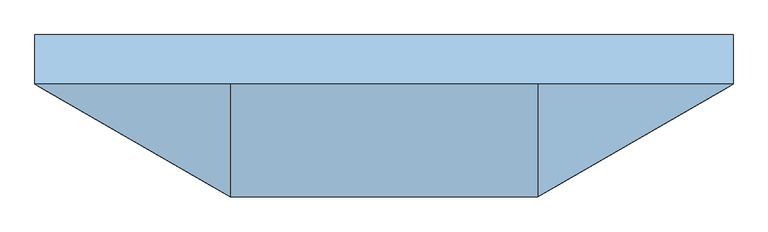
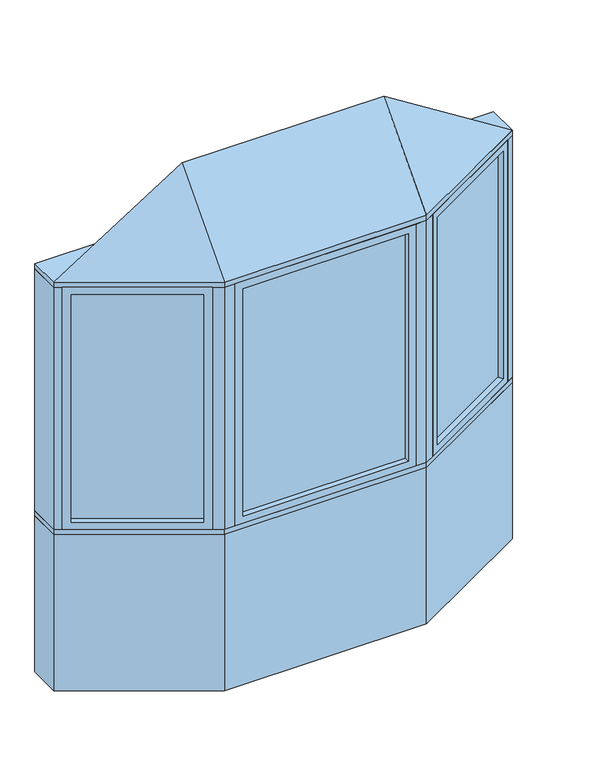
"""IFC4 building model written with IfcOpenShell, lengths in millimetres: window geometry, Pollard_Windows_Tudor Casement Bows and Bays : AML-BAY 30 AFR0612-10-600."""

import ifcopenshell
import ifcopenshell.guid

model = None  # the IFC model being written
_history = None  # IfcOwnerHistory: only IFC2X3 demands one
_inside = {}  # id of a spatial element -> (the spatial element, [elements in it])
_under = {}  # id of a project, library or spatial element -> (it, [spatial elements below it])
_declared = {}  # id of a project -> (the project, [libraries it declares])
_typed = {}  # id of a type object -> (the type object, [elements of that type])
_made_of = {}  # id of a material, layer set ... -> (it, [elements and type objects made of it])


def new_model(schema):
    """Start an empty IFC model of exactly this schema.

    Asked for "IFC4X3", IfcOpenShell would pick the latest addendum, in which some entities
    have other attributes; the version numbers below select the first issue.
    IFC2X3 requires an IfcOwnerHistory on every rooted entity: one is made here for all.
    """
    global model, _history
    if schema == "IFC4X3":
        model = ifcopenshell.file(schema_version=(4, 3, 0, 0))
    else:
        model = ifcopenshell.file(schema=schema)
    _inside.clear()
    _under.clear()
    _declared.clear()
    _typed.clear()
    _made_of.clear()
    _history = None
    if model.schema == "IFC2X3":
        org = make("IfcOrganization", Name="unknown")
        user = make(
            "IfcPersonAndOrganization",
            ThePerson=make("IfcPerson", FamilyName="unknown"),
            TheOrganization=org,
        )
        app = make(
            "IfcApplication",
            ApplicationDeveloper=org,
            Version="unknown",
            ApplicationFullName="unknown",
            ApplicationIdentifier="unknown",
        )
        _history = make(
            "IfcOwnerHistory",
            OwningUser=user,
            OwningApplication=app,
            ChangeAction="ADDED",
            CreationDate=0,
        )
    return model


def make(cls, **values):
    """One entity of the class cls with the attributes given. An attribute that is None is left unset."""
    return model.create_entity(
        cls, **{name: value for name, value in values.items() if value is not None}
    )


def rooted(cls, **values):
    """An entity with a GlobalId (a new one), such as an element, a storey or a relation."""
    return make(cls, GlobalId=ifcopenshell.guid.new(), OwnerHistory=_history, **values)


def si_unit(unit_type, name, prefix=None):
    """IfcSIUnit, for example si_unit("LENGTHUNIT", "METRE", prefix="MILLI")."""
    return make("IfcSIUnit", UnitType=unit_type, Prefix=prefix, Name=name)


def assignment(units):
    """IfcUnitAssignment: the units of a project."""
    return None if units is None else make("IfcUnitAssignment", Units=units)


def point(xyz):
    """IfcCartesianPoint."""
    return None if xyz is None else make("IfcCartesianPoint", Coordinates=xyz)


def direction(xyz):
    """IfcDirection."""
    return None if xyz is None else make("IfcDirection", DirectionRatios=xyz)


def frame(location, z_axis=None, x_axis=None):
    """IfcAxis2Placement3D, a coordinate frame: its origin and axes. An axis left out is left unset."""
    return make(
        "IfcAxis2Placement3D",
        Location=point(location),
        Axis=direction(z_axis),
        RefDirection=direction(x_axis),
    )


def origin():
    """The frame at (0, 0, 0) with its axes left unset."""
    return frame((0.0, 0.0, 0.0))


def origin_with_axes():
    """The frame at (0, 0, 0) with the z axis (0, 0, 1) and the x axis (1, 0, 0) written out."""
    return frame((0.0, 0.0, 0.0), z_axis=(0.0, 0.0, 1.0), x_axis=(1.0, 0.0, 0.0))


def place(relative_to, where):
    """IfcLocalPlacement: puts the frame where relative to a parent placement (None: the world)."""
    return make(
        "IfcLocalPlacement", PlacementRelTo=relative_to, RelativePlacement=where
    )


def context(
    kind, dimensions, precision=None, world=None, true_north=None, identifier=None
):
    """IfcGeometricRepresentationContext, for example the 3D "Model" context."""
    return make(
        "IfcGeometricRepresentationContext",
        ContextIdentifier=identifier,
        ContextType=kind,
        CoordinateSpaceDimension=dimensions,
        Precision=precision,
        WorldCoordinateSystem=world,
        TrueNorth=true_north,
    )


def project(units=None, contexts=None):
    """IfcProject with its units and contexts."""
    return rooted(
        "IfcProject",
        Name="project",
        RepresentationContexts=contexts,
        UnitsInContext=assignment(units),
    )


def spatial(cls, under=None, at=None, **own):
    """A site, building, storey or space (cls), placed at a placement, below another one or the project."""
    s = rooted(cls, ObjectPlacement=at, **own)
    if under is not None:
        _under.setdefault(under.id(), (under, []))[1].append(s)
    return s


def polyline(points):
    """IfcPolyline through the points."""
    return make("IfcPolyline", Points=[point(p) for p in points])


def outline(outer, holes=None, kind="AREA"):
    """IfcArbitraryClosedProfileDef: a profile drawn as a closed curve; with holes, ...WithVoids."""
    if holes is None:
        return make("IfcArbitraryClosedProfileDef", ProfileType=kind, OuterCurve=outer)
    return make(
        "IfcArbitraryProfileDefWithVoids",
        ProfileType=kind,
        OuterCurve=outer,
        InnerCurves=holes,
    )


def extrude(swept, where, along, depth):
    """IfcExtrudedAreaSolid: the profile swept, set in the frame where, extruded along a direction by depth."""
    return make(
        "IfcExtrudedAreaSolid",
        SweptArea=swept,
        Position=where,
        ExtrudedDirection=direction(along),
        Depth=depth,
    )


def faces_of(points, faces, orient=None, outer=None):
    """IfcFace entities. A face is a list of loops; a loop is a list of indices into points, from 0.

    orient and outer hold one flag for each loop. By default every Orientation is true, the
    first loop of a face is its IfcFaceOuterBound and the others are IfcFaceBound.
    """
    made = []
    for i, loops in enumerate(faces):
        bounds = []
        for j, loop in enumerate(loops):
            is_outer = j == 0 if outer is None else outer[i][j]
            bounds.append(
                make(
                    "IfcFaceOuterBound" if is_outer else "IfcFaceBound",
                    Bound=make("IfcPolyLoop", Polygon=[points[k] for k in loop]),
                    Orientation=True if orient is None else orient[i][j],
                )
            )
        made.append(make("IfcFace", Bounds=bounds))
    return made


def faceted_brep(points, faces, orient=None, outer=None, voids=None):
    """IfcFacetedBrep: a solid bounded by flat faces; with voids (closed shells), ...WithVoids."""
    shared = [point(p) for p in points]
    hull = make("IfcClosedShell", CfsFaces=faces_of(shared, faces, orient, outer))
    if voids is None:
        return make("IfcFacetedBrep", Outer=hull)
    return make(
        "IfcFacetedBrepWithVoids",
        Outer=hull,
        Voids=[
            make(cls, CfsFaces=faces_of(shared, fs, o, b)) for cls, fs, o, b in voids
        ],
    )


def shape(context_of_items, identifier, shape_type, items):
    """IfcShapeRepresentation: the items that make up one representation, for example the "Body"."""
    return make(
        "IfcShapeRepresentation",
        ContextOfItems=context_of_items,
        RepresentationIdentifier=identifier,
        RepresentationType=shape_type,
        Items=items,
    )


def source(mapping_origin, context_of_items, identifier, shape_type, items):
    """IfcRepresentationMap: a shape defined once, which mapped items show again and again."""
    return make(
        "IfcRepresentationMap",
        MappingOrigin=mapping_origin,
        MappedRepresentation=shape(context_of_items, identifier, shape_type, items),
    )


def transform(
    local_origin,
    x_axis=None,
    y_axis=None,
    z_axis=None,
    scale=None,
    scale2=None,
    scale3=None,
    uniform=True,
):
    """IfcCartesianTransformationOperator3D, or its non-uniform kind. x_axis, y_axis, z_axis: its Axis1, 2, 3."""
    if uniform:
        return make(
            "IfcCartesianTransformationOperator3D",
            Axis1=direction(x_axis),
            Axis2=direction(y_axis),
            LocalOrigin=point(local_origin),
            Scale=scale,
            Axis3=direction(z_axis),
        )
    return make(
        "IfcCartesianTransformationOperator3DnonUniform",
        Axis1=direction(x_axis),
        Axis2=direction(y_axis),
        LocalOrigin=point(local_origin),
        Scale=scale,
        Axis3=direction(z_axis),
        Scale2=scale2,
        Scale3=scale3,
    )


def mapped(mapping_source, mapping_target):
    """IfcMappedItem: shows the shape of a source again, moved by a transform."""
    return make(
        "IfcMappedItem", MappingSource=mapping_source, MappingTarget=mapping_target
    )


def made_of(thing, what):
    """Note that an element or type object is made of a material, layer set ...; save() writes the relation."""
    if what is not None:
        _made_of.setdefault(what.id(), (what, []))[1].append(thing)
    return thing


def element(
    cls,
    number,
    at=None,
    inside=None,
    cuts=None,
    type_object=None,
    material=None,
    context=None,
    identifier="Body",
    shape_type=None,
    held_by="IfcProductDefinitionShape",
    body=None,
    shapes=None,
    **own,
):
    """One element of the class cls, such as IfcWall. Its Tag is "e" and its number.

    at: its placement. inside: the storey or other place that contains it. cuts: it is an
    opening in that element (IfcRelVoidsElement). A single representation is given by context,
    identifier, shape_type and body (its items); several are given by shapes. held_by: the class
    of the entity that holds the representations. save() writes the other relations.
    """
    e = rooted(cls, Tag="e%d" % number, ObjectPlacement=at, **own)
    if body is not None:
        shapes = [shape(context, identifier, shape_type, body)]
    if shapes is not None:
        e.Representation = make(held_by, Representations=shapes)
    if inside is not None:
        _inside.setdefault(inside.id(), (inside, []))[1].append(e)
    if cuts is not None:
        rooted(
            "IfcRelVoidsElement", RelatingBuildingElement=cuts, RelatedOpeningElement=e
        )
    if type_object is not None:
        _typed.setdefault(type_object.id(), (type_object, []))[1].append(e)
    return made_of(e, material)


def aggregate(whole, parts):
    """IfcRelAggregates: a whole, such as a stair, and the parts it consists of."""
    return rooted("IfcRelAggregates", RelatingObject=whole, RelatedObjects=parts)


def save(model, path):
    """Write the relations noted so far, then the file.

    IfcRelAggregates (storeys below a building ...), IfcRelContainedInSpatialStructure (elements
    in a storey), IfcRelDefinesByType, IfcRelAssociatesMaterial and IfcRelDeclares: one each for
    every whole, place, type object, material and project.
    """
    for whole, parts in _under.values():
        aggregate(whole, parts)
    for where, things in _inside.values():
        rooted(
            "IfcRelContainedInSpatialStructure",
            RelatedElements=things,
            RelatingStructure=where,
        )
    for kind, things in _typed.values():
        rooted("IfcRelDefinesByType", RelatedObjects=things, RelatingType=kind)
    for what, things in _made_of.values():
        rooted("IfcRelAssociatesMaterial", RelatedObjects=things, RelatingMaterial=what)
    for by, libraries in _declared.values():
        rooted("IfcRelDeclares", RelatingContext=by, RelatedDefinitions=libraries)
    model.write(path)


def window_05678f7b(model_context):
    return source(origin(), model_context, "Body", "SolidModel", [
        extrude(outline(polyline([(1013.112102, -82.0482469), (524.8834764, -363.9271754), (522.3434764, -359.5277664), (1010.572102, -77.6488379), (1013.112102, -82.0482469)])), frame((0.0, 0.0, 823.1628), z_axis=(0.0, 0.0, 1.0), x_axis=(1.0, 0.0, 0.0)), (0.0, 0.0, 1.0), 1153.6704),
        faceted_brep([(1002.1135794, -88.3982469, 835.8628), (1014.8135794, -110.3952922, 835.8628), (1014.8135794, -110.3952922, 1964.1332), (1002.1135794, -88.3982469, 1964.1332), (1010.572102, -77.6488379, 823.1628), (1013.112102, -82.0482469, 823.1628), (1013.112102, -82.0482469, 1976.8332), (1010.572102, -77.6488379, 1976.8332), (986.8735794, -62.0017926, 835.8628), (999.5735794, -83.9988379, 835.8628), (999.5735794, -83.9988379, 1964.1332), (986.8735794, -62.0017926, 1964.1332), (1045.8734073, -92.4628922, 799.998), (1017.9334073, -44.0693926, 799.998), (1017.9334073, -44.0693926, 1999.998), (1045.8734073, -92.4628922, 1999.998), (548.581999, -379.5742207, 1964.1332), (535.881999, -357.5771754, 1964.1332), (524.8834764, -363.9271754, 1976.8332), (522.3434764, -359.5277664, 1976.8332), (533.341999, -353.1777664, 1964.1332), (520.641999, -331.1807211, 1964.1332), (489.5821711, -349.1131211, 1999.998), (517.5221711, -397.5066207, 1999.998), (548.581999, -379.5742207, 835.8628), (535.881999, -357.5771754, 835.8628), (524.8834764, -363.9271754, 823.1628), (522.3434764, -359.5277664, 823.1628), (533.341999, -353.1777664, 835.8628), (520.641999, -331.1807211, 835.8628), (489.5821711, -349.1131211, 799.998), (517.5221711, -397.5066207, 799.998)], [[[0, 1, 2, 3]], [[4, 5, 6, 7]], [[8, 9, 10, 11]], [[12, 13, 14, 15]], [[3, 2, 16, 17]], [[7, 6, 18, 19]], [[11, 10, 20, 21]], [[15, 14, 22, 23]], [[17, 16, 24, 25]], [[19, 18, 26, 27]], [[21, 20, 28, 29]], [[23, 22, 30, 31]], [[25, 24, 1, 0]], [[5, 26, 18, 6], [3, 17, 25, 0]], [[27, 26, 5, 4]], [[7, 19, 27, 4], [9, 28, 20, 10]], [[29, 28, 9, 8]], [[13, 30, 22, 14], [11, 21, 29, 8]], [[31, 30, 13, 12]], [[15, 23, 31, 12], [1, 24, 16, 2]]]),
        extrude(outline(polyline([(-524.8834764, -363.9271754), (-1013.112102, -82.0482469), (-1010.572102, -77.6488379), (-522.3434764, -359.5277664), (-524.8834764, -363.9271754)])), frame((0.0, 0.0, 823.1628), z_axis=(0.0, 0.0, 1.0), x_axis=(1.0, 0.0, 0.0)), (0.0, 0.0, 1.0), 1153.6704),
        faceted_brep([(-533.341999, -353.1777664, 1964.1332), (-520.641999, -331.1807211, 1964.1332), (-520.641999, -331.1807211, 835.8628), (-533.341999, -353.1777664, 835.8628), (-524.8834764, -363.9271754, 1976.8332), (-522.3434764, -359.5277664, 1976.8332), (-522.3434764, -359.5277664, 823.1628), (-524.8834764, -363.9271754, 823.1628), (-548.581999, -379.5742207, 1964.1332), (-535.881999, -357.5771754, 1964.1332), (-535.881999, -357.5771754, 835.8628), (-548.581999, -379.5742207, 835.8628), (-489.5821711, -349.1131211, 1999.998), (-517.5221711, -397.5066207, 1999.998), (-517.5221711, -397.5066207, 799.998), (-489.5821711, -349.1131211, 799.998), (-986.8735794, -62.0017926, 835.8628), (-999.5735794, -83.9988379, 835.8628), (-1010.572102, -77.6488379, 823.1628), (-1013.112102, -82.0482469, 823.1628), (-1002.1135794, -88.3982469, 835.8628), (-1014.8135794, -110.3952922, 835.8628), (-1045.8734073, -92.4628922, 799.998), (-1017.9334073, -44.0693926, 799.998), (-986.8735794, -62.0017926, 1964.1332), (-999.5735794, -83.9988379, 1964.1332), (-1010.572102, -77.6488379, 1976.8332), (-1013.112102, -82.0482469, 1976.8332), (-1002.1135794, -88.3982469, 1964.1332), (-1014.8135794, -110.3952922, 1964.1332), (-1045.8734073, -92.4628922, 1999.998), (-1017.9334073, -44.0693926, 1999.998)], [[[0, 1, 2, 3]], [[4, 5, 6, 7]], [[8, 9, 10, 11]], [[12, 13, 14, 15]], [[3, 2, 16, 17]], [[7, 6, 18, 19]], [[11, 10, 20, 21]], [[15, 14, 22, 23]], [[17, 16, 24, 25]], [[19, 18, 26, 27]], [[21, 20, 28, 29]], [[23, 22, 30, 31]], [[15, 23, 31, 12], [1, 24, 16, 2]], [[25, 24, 1, 0]], [[5, 26, 18, 6], [3, 17, 25, 0]], [[27, 26, 5, 4]], [[7, 19, 27, 4], [9, 28, 20, 10]], [[29, 28, 9, 8]], [[13, 30, 22, 14], [11, 21, 29, 8]], [[31, 30, 13, 12]]]),
        extrude(outline(polyline([(401.0561009, -397.1066207), (-401.0561009, -397.1066207), (-401.0561009, -392.0266207), (401.0561009, -392.0266207), (401.0561009, -397.1066207)])), frame((0.0, 0.0, 823.1628), z_axis=(0.0, 0.0, 1.0), x_axis=(1.0, 0.0, 0.0)), (0.0, 0.0, 1.0), 1153.6704),
        faceted_brep([(388.3561009, -397.1066207, 835.8628), (388.3561009, -422.5066207, 835.8628), (388.3561009, -422.5066207, 1964.1332), (388.3561009, -397.1066207, 1964.1332), (401.0561009, -392.0266207, 823.1628), (401.0561009, -397.1066207, 823.1628), (401.0561009, -397.1066207, 1976.8332), (401.0561009, -392.0266207, 1976.8332), (388.3561009, -366.6266207, 835.8628), (388.3561009, -392.0266207, 835.8628), (388.3561009, -392.0266207, 1964.1332), (388.3561009, -366.6266207, 1964.1332), (424.2209009, -422.5066207, 799.998), (424.2209009, -366.6266207, 799.998), (424.2209009, -366.6266207, 1999.998), (424.2209009, -422.5066207, 1999.998), (-388.3561009, -422.5066207, 1964.1332), (-388.3561009, -397.1066207, 1964.1332), (-401.0561009, -397.1066207, 1976.8332), (-401.0561009, -392.0266207, 1976.8332), (-388.3561009, -392.0266207, 1964.1332), (-388.3561009, -366.6266207, 1964.1332), (-424.2209009, -366.6266207, 1999.998), (-424.2209009, -422.5066207, 1999.998), (-388.3561009, -422.5066207, 835.8628), (-388.3561009, -397.1066207, 835.8628), (-401.0561009, -397.1066207, 823.1628), (-401.0561009, -392.0266207, 823.1628), (-388.3561009, -392.0266207, 835.8628), (-388.3561009, -366.6266207, 835.8628), (-424.2209009, -366.6266207, 799.998), (-424.2209009, -422.5066207, 799.998)], [[[0, 1, 2, 3]], [[4, 5, 6, 7]], [[8, 9, 10, 11]], [[12, 13, 14, 15]], [[3, 2, 16, 17]], [[7, 6, 18, 19]], [[11, 10, 20, 21]], [[15, 14, 22, 23]], [[17, 16, 24, 25]], [[19, 18, 26, 27]], [[21, 20, 28, 29]], [[23, 22, 30, 31]], [[15, 23, 31, 12], [1, 24, 16, 2]], [[25, 24, 1, 0]], [[5, 26, 18, 6], [3, 17, 25, 0]], [[27, 26, 5, 4]], [[7, 19, 27, 4], [9, 28, 20, 10]], [[29, 28, 9, 8]], [[13, 30, 22, 14], [11, 21, 29, 8]], [[31, 30, 13, 12]]]),
        faceted_brep([(1076.5, -74.7806207, 2025.398), (474.2209009, -422.5066207, 2025.398), (-474.2209009, -422.5066207, 2025.398), (-1076.5, -74.7806207, 2025.398), (-474.2209009, -74.7806207, 2406.398), (474.2209009, -74.7806207, 2406.398)], [[[0, 1, 2, 3]], [[3, 2, 4]], [[2, 1, 5, 4]], [[1, 0, 5]], [[0, 3, 4, 5]]]),
        extrude(outline(polyline([(-1076.5, 77.6193793), (1076.5, 77.6193793), (1076.5, -74.7806207), (474.2209009, -422.5066207), (-474.2209009, -422.5066207), (-1076.5, -74.7806207), (-1076.5, 77.6193793)])), frame((0.0, 0.0, 1999.998), z_axis=(0.0, 0.0, 1.0), x_axis=(1.0, 0.0, 0.0)), (0.0, 0.0, 1.0), 25.4),
        extrude(outline(polyline([(-1076.5, -74.7806207), (-1076.5, 77.6193793), (-1035.6645431, 77.6193793), (-1035.6645431, -74.7806207), (-1045.8734073, -92.4628922), (-1076.5, -74.7806207)])), frame((0.0, 0.0, 799.998), z_axis=(0.0, 0.0, 1.0), x_axis=(1.0, 0.0, 0.0)), (0.0, 0.0, 1.0), 1200.0),
        extrude(outline(polyline([(1076.5, 77.6193793), (1076.5, -74.7806207), (1045.8734073, -92.4628922), (1035.6645431, -74.7806207), (1035.6645431, 77.6193793), (1076.5, 77.6193793)])), frame((0.0, 0.0, 799.998), z_axis=(0.0, 0.0, 1.0), x_axis=(1.0, 0.0, 0.0)), (0.0, 0.0, 1.0), 1200.0),
        extrude(outline(polyline([(474.2209009, -422.5066207), (424.2209009, -422.5066207), (424.2209009, -372.5066207), (460.8234413, -372.5066207), (492.5221711, -354.2053505), (517.5221711, -397.5066207), (474.2209009, -422.5066207)])), frame((0.0, 0.0, 799.998), z_axis=(0.0, 0.0, 1.0), x_axis=(1.0, 0.0, 0.0)), (0.0, 0.0, 1.0), 1200.0),
        extrude(outline(polyline([(-474.2209009, -422.5066207), (-517.5221711, -397.5066207), (-492.5221711, -354.2053505), (-460.8234413, -372.5066207), (-424.2209009, -372.5066207), (-424.2209009, -422.5066207), (-474.2209009, -422.5066207)])), frame((0.0, 0.0, 799.998), z_axis=(0.0, 0.0, 1.0), x_axis=(1.0, 0.0, 0.0)), (0.0, 0.0, 1.0), 1200.0),
        extrude(outline(polyline([(-474.2209009, -422.5066207), (-1076.5, -74.7806207), (-1076.5, 77.6193793), (-1035.6645431, 77.6193793), (-433.385444, -270.1066207), (433.385444, -270.1066207), (1035.6645431, 77.6193793), (1076.5, 77.6193793), (1076.5, -74.7806207), (474.2209009, -422.5066207), (-474.2209009, -422.5066207)])), frame((0.0, 0.0, 774.598), z_axis=(0.0, 0.0, 1.0), x_axis=(1.0, 0.0, 0.0)), (0.0, 0.0, 1.0), 25.4),
        extrude(outline(polyline([(-1076.5, -74.7806207), (-1076.5, 77.6193793), (-1035.6645431, 77.6193793), (-433.385444, -270.1066207), (433.385444, -270.1066207), (1035.6645431, 77.6193793), (1076.5, 77.6193793), (1076.5, -74.7806207), (474.2209009, -422.5066207), (-474.2209009, -422.5066207), (-1076.5, -74.7806207)])), origin_with_axes(), (0.0, 0.0, 1.0), 774.598),
    ])


if __name__ == "__main__":
    model = new_model("IFC4")
    model_context = context("Model", 3, world=origin())
    ifc_project = project(units=[si_unit("LENGTHUNIT", "METRE", prefix="MILLI")], contexts=[model_context])
    site = spatial("IfcSite", under=ifc_project)
    building = spatial("IfcBuilding", under=site)
    placement = place(None, origin())
    window_shape = window_05678f7b(model_context)
    element("IfcWindow", 1, ObjectType="Pollard_Windows_Tudor Casement Bows and Bays : AML-BAY 30 AFR0612-10-600", at=placement, inside=building, context=model_context, shape_type="MappedRepresentation", body=[
        mapped(window_shape, transform((0.0, 0.0, 0.0), x_axis=(1.0, 0.0, 0.0), y_axis=(0.0, 1.0, 0.0), z_axis=(0.0, 0.0, 1.0))),
    ])
    save(model, "model.ifc")
